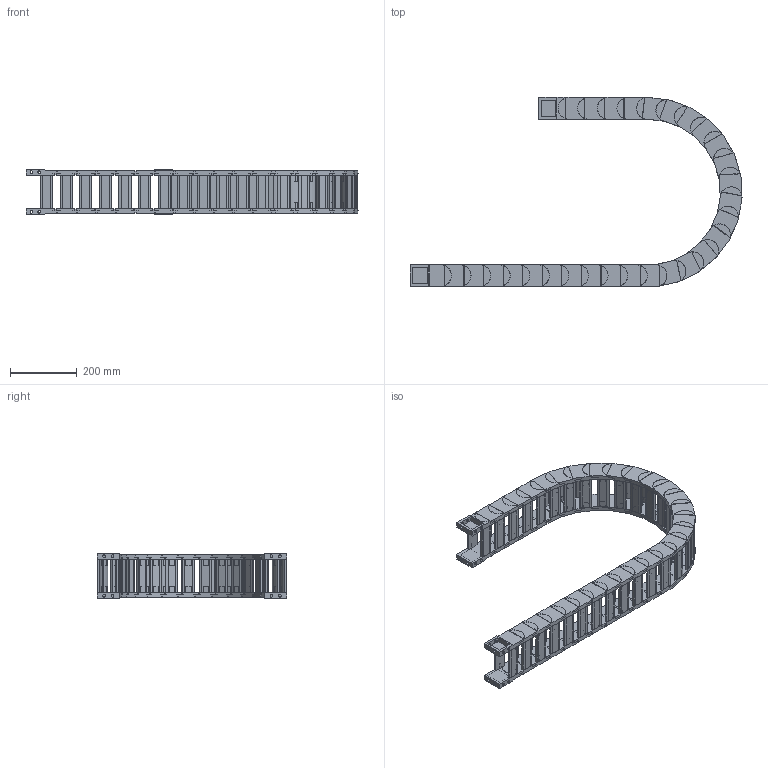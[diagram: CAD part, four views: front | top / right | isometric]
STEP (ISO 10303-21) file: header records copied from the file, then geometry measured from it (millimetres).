
FILE_DESCRIPTION((''),'2;1');
FILE_NAME('HD45-R250-ZPT_ASM','2022-06-20T19:55:02',('admin'),(''),'CREO PARAMETRIC BY PTC INC, 2021164','CREO PARAMETRIC BY PTC INC, 2021164','');
FILE_SCHEMA(('CONFIG_CONTROL_DESIGN','GEOMETRIC_VALIDATION_PROPERTIES_MIM'));
Length unit declared in the file: millimetre
Products named in the file (6): HD45-585; 45-500001; HD45_ASM; H45-T1-G; H45-T2-G; HD45-R250-ZPT_ASM
Assembly tree (34 placements, depth 3):
  HD45-R250-ZPT_ASM
    HD45_ASM  x28
      HD45-585
      45-500001
    H45-T1-G
    H45-T2-G
    45-500001  x2
Bounding box: 991.73 x 564.73 x 133.3 mm (x, y, z)
Volume: 5079141.1 mm3; surface area: 1737855.5 mm2
Topology: 120 solids, 120 shells, 2322 faces, 6218 edges, 4260 vertices
Faces by surface type: plane 1526, cylinder 796
Entity records: 8726 total; most frequent: CARTESIAN_POINT 1408, DIRECTION 1398, ORIENTED_EDGE 1276, EDGE_CURVE 638, AXIS2_PLACEMENT_3D 488, VERTEX_POINT 432, VECTOR 422, LINE 422
